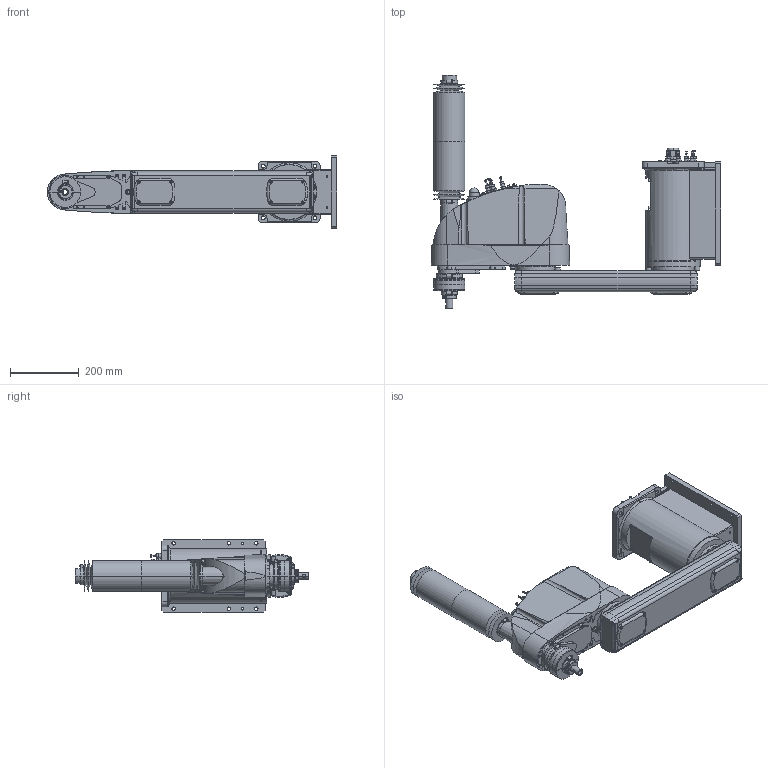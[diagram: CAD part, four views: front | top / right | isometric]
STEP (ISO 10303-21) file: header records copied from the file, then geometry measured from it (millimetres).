
FILE_DESCRIPTION( ( '' ), '1' );
FILE_NAME( '//expscmdclustefs.cadenas.external/client_exchange/iodir/jobs/output/wkb51546506_no0/STEP/G6_653PW_2_14b.stp', '2012-11-23T13:08:55', ( '' ), ( '' ), ' ', ' ', ' ' );
FILE_SCHEMA( ( 'automotive_design' ) );
Length unit declared in the file: millimetre
Products named in the file (8): 1; 2; 3; 4; 5; 6; 7; 8
Bounding box: 840 x 679.5 x 210 mm (x, y, z)
Volume: 24008717.6 mm3; surface area: 1255158 mm2
Topology: 8 solids, 8 shells, 1857 faces, 4500 edges, 2860 vertices
Faces by surface type: plane 886, cylinder 652, cone 278, torus 40, sphere 1
Entity records: 109345 total; most frequent: CARTESIAN_POINT 13210, DIRECTION 9610, STYLED_ITEM 9195, PRESENTATION_STYLE_ASSIGNMENT 9195, COLOUR_RGB 9195, ORIENTED_EDGE 8940, EDGE_CURVE 4470, CURVE_STYLE 4470
